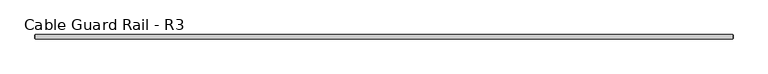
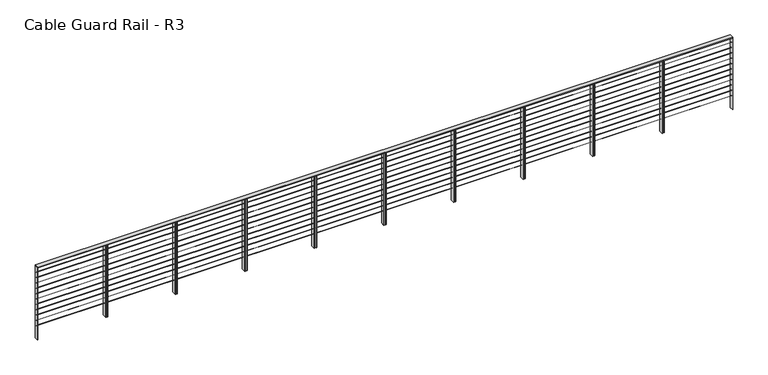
"""IFC4 building model written with IfcOpenShell, lengths in millimetres: railing geometry, Cable Guard Rail - R3."""

from ifc_helpers import new_model, si_unit, point, frame, frame_2d, origin, place, context, project, spatial, polyline, circle_curve, trimmed, segment, composite_curve, outline, extrude, source, transform, mapped, element, save


def cable_guard_rail_r3_83a43c1e(model_context):
    return source(origin(), model_context, "Body", "SweptSolid", [
        extrude(outline(polyline([(22546.3794304, 175195.7186306), (22546.3794304, 175271.9186306), (35016.7412551, 175271.9186306), (35016.7412551, 175195.7186306), (22546.3794304, 175195.7186306)])), frame((0.0, 0.0, 294887.65), z_axis=(0.0, 0.0, 1.0), x_axis=(1.0, 0.0, 0.0)), (0.0, 0.0, 1.0), 12.7),
        extrude(outline(composite_curve([segment(trimmed(circle_curve(frame_2d((175233.8186306, 294786.05)), 3.175), [point((175236.9936306, 294786.05))], [point((175230.6436306, 294786.05))], False, "CARTESIAN"), True, "CONTINUOUS"), segment(trimmed(circle_curve(frame_2d((175233.8186306, 294786.05)), 3.175), [point((175230.6436306, 294786.05))], [point((175236.9936306, 294786.05))], False, "CARTESIAN"), True, "CONTINUOUS")], self_intersect=False)), frame((22546.3794304, 0.0, 0.0), z_axis=(1.0, 0.0, 0.0), x_axis=(0.0, 1.0, 0.0)), (0.0, 0.0, 1.0), 12470.3618247),
        extrude(outline(composite_curve([segment(trimmed(circle_curve(frame_2d((175233.8186306, 294684.45)), 3.175), [point((175236.9936306, 294684.45))], [point((175230.6436306, 294684.45))], False, "CARTESIAN"), True, "CONTINUOUS"), segment(trimmed(circle_curve(frame_2d((175233.8186306, 294684.45)), 3.175), [point((175230.6436306, 294684.45))], [point((175236.9936306, 294684.45))], False, "CARTESIAN"), True, "CONTINUOUS")], self_intersect=False)), frame((22546.3794304, 0.0, 0.0), z_axis=(1.0, 0.0, 0.0), x_axis=(0.0, 1.0, 0.0)), (0.0, 0.0, 1.0), 12470.3618247),
        extrude(outline(composite_curve([segment(trimmed(circle_curve(frame_2d((175233.8186306, 294582.85)), 3.175), [point((175236.9936306, 294582.85))], [point((175230.6436306, 294582.85))], False, "CARTESIAN"), True, "CONTINUOUS"), segment(trimmed(circle_curve(frame_2d((175233.8186306, 294582.85)), 3.175), [point((175230.6436306, 294582.85))], [point((175236.9936306, 294582.85))], False, "CARTESIAN"), True, "CONTINUOUS")], self_intersect=False)), frame((22546.3794304, 0.0, 0.0), z_axis=(1.0, 0.0, 0.0), x_axis=(0.0, 1.0, 0.0)), (0.0, 0.0, 1.0), 12470.3618247),
        extrude(outline(composite_curve([segment(trimmed(circle_curve(frame_2d((175233.8186306, 294481.25)), 3.175), [point((175236.9936306, 294481.25))], [point((175230.6436306, 294481.25))], False, "CARTESIAN"), True, "CONTINUOUS"), segment(trimmed(circle_curve(frame_2d((175233.8186306, 294481.25)), 3.175), [point((175230.6436306, 294481.25))], [point((175236.9936306, 294481.25))], False, "CARTESIAN"), True, "CONTINUOUS")], self_intersect=False)), frame((22546.3794304, 0.0, 0.0), z_axis=(1.0, 0.0, 0.0), x_axis=(0.0, 1.0, 0.0)), (0.0, 0.0, 1.0), 12470.3618247),
        extrude(outline(composite_curve([segment(trimmed(circle_curve(frame_2d((175233.8186306, 294379.65)), 3.175), [point((175236.9936306, 294379.65))], [point((175230.6436306, 294379.65))], False, "CARTESIAN"), True, "CONTINUOUS"), segment(trimmed(circle_curve(frame_2d((175233.8186306, 294379.65)), 3.175), [point((175230.6436306, 294379.65))], [point((175236.9936306, 294379.65))], False, "CARTESIAN"), True, "CONTINUOUS")], self_intersect=False)), frame((22546.3794304, 0.0, 0.0), z_axis=(1.0, 0.0, 0.0), x_axis=(0.0, 1.0, 0.0)), (0.0, 0.0, 1.0), 12470.3618247),
        extrude(outline(composite_curve([segment(trimmed(circle_curve(frame_2d((175233.8186306, 294278.05)), 3.175), [point((175236.9936306, 294278.05))], [point((175230.6436306, 294278.05))], False, "CARTESIAN"), True, "CONTINUOUS"), segment(trimmed(circle_curve(frame_2d((175233.8186306, 294278.05)), 3.175), [point((175230.6436306, 294278.05))], [point((175236.9936306, 294278.05))], False, "CARTESIAN"), True, "CONTINUOUS")], self_intersect=False)), frame((22546.3794304, 0.0, 0.0), z_axis=(1.0, 0.0, 0.0), x_axis=(0.0, 1.0, 0.0)), (0.0, 0.0, 1.0), 12470.3618247),
        extrude(outline(composite_curve([segment(trimmed(circle_curve(frame_2d((175233.8186306, 294176.45)), 3.175), [point((175236.9936306, 294176.45))], [point((175230.6436306, 294176.45))], False, "CARTESIAN"), True, "CONTINUOUS"), segment(trimmed(circle_curve(frame_2d((175233.8186306, 294176.45)), 3.175), [point((175230.6436306, 294176.45))], [point((175236.9936306, 294176.45))], False, "CARTESIAN"), True, "CONTINUOUS")], self_intersect=False)), frame((22546.3794304, 0.0, 0.0), z_axis=(1.0, 0.0, 0.0), x_axis=(0.0, 1.0, 0.0)), (0.0, 0.0, 1.0), 12470.3618247),
        extrude(outline(composite_curve([segment(trimmed(circle_curve(frame_2d((175233.8186306, 294074.85)), 3.175), [point((175236.9936306, 294074.85))], [point((175230.6436306, 294074.85))], False, "CARTESIAN"), True, "CONTINUOUS"), segment(trimmed(circle_curve(frame_2d((175233.8186306, 294074.85)), 3.175), [point((175230.6436306, 294074.85))], [point((175236.9936306, 294074.85))], False, "CARTESIAN"), True, "CONTINUOUS")], self_intersect=False)), frame((22546.3794304, 0.0, 0.0), z_axis=(1.0, 0.0, 0.0), x_axis=(0.0, 1.0, 0.0)), (0.0, 0.0, 1.0), 12470.3618247),
        extrude(outline(composite_curve([segment(trimmed(circle_curve(frame_2d((175233.8186306, 293973.25)), 3.175), [point((175236.9936306, 293973.25))], [point((175230.6436306, 293973.25))], False, "CARTESIAN"), True, "CONTINUOUS"), segment(trimmed(circle_curve(frame_2d((175233.8186306, 293973.25)), 3.175), [point((175230.6436306, 293973.25))], [point((175236.9936306, 293973.25))], False, "CARTESIAN"), True, "CONTINUOUS")], self_intersect=False)), frame((22546.3794304, 0.0, 0.0), z_axis=(1.0, 0.0, 0.0), x_axis=(0.0, 1.0, 0.0)), (0.0, 0.0, 1.0), 12470.3618247),
        extrude(outline(composite_curve([segment(trimmed(circle_curve(frame_2d((175233.8186306, 293871.65)), 3.175), [point((175236.9936306, 293871.65))], [point((175230.6436306, 293871.65))], False, "CARTESIAN"), True, "CONTINUOUS"), segment(trimmed(circle_curve(frame_2d((175233.8186306, 293871.65)), 3.175), [point((175230.6436306, 293871.65))], [point((175236.9936306, 293871.65))], False, "CARTESIAN"), True, "CONTINUOUS")], self_intersect=False)), frame((22546.3794304, 0.0, 0.0), z_axis=(1.0, 0.0, 0.0), x_axis=(0.0, 1.0, 0.0)), (0.0, 0.0, 1.0), 12470.3618247),
        extrude(outline(composite_curve([segment(trimmed(circle_curve(frame_2d((175233.8186306, 293770.05)), 3.175), [point((175236.9936306, 293770.05))], [point((175230.6436306, 293770.05))], False, "CARTESIAN"), True, "CONTINUOUS"), segment(trimmed(circle_curve(frame_2d((175233.8186306, 293770.05)), 3.175), [point((175230.6436306, 293770.05))], [point((175236.9936306, 293770.05))], False, "CARTESIAN"), True, "CONTINUOUS")], self_intersect=False)), frame((22546.3794304, 0.0, 0.0), z_axis=(1.0, 0.0, 0.0), x_axis=(0.0, 1.0, 0.0)), (0.0, 0.0, 1.0), 12470.3618247),
        extrude(outline(polyline([(33747.4800727, 175271.9186306), (33757.0050727, 175271.9186306), (33757.0050727, 175195.7186306), (33747.4800727, 175195.7186306), (33747.4800727, 175271.9186306)])), frame((0.0, 0.0, 293522.4), z_axis=(0.0, 0.0, 1.0), x_axis=(1.0, 0.0, 0.0)), (0.0, 0.0, 1.0), 1365.25),
        extrude(outline(polyline([(33776.0550727, 175271.9186306), (33785.5318373, 175271.9186306), (33785.5318373, 175195.7186306), (33776.0550727, 175195.7186306), (33776.0550727, 175271.9186306)])), frame((0.0, 0.0, 293522.4), z_axis=(0.0, 0.0, 1.0), x_axis=(1.0, 0.0, 0.0)), (0.0, 0.0, 1.0), 1365.25),
        extrude(outline(polyline([(32500.4438902, 175271.9186306), (32509.9688902, 175271.9186306), (32509.9688902, 175195.7186306), (32500.4438902, 175195.7186306), (32500.4438902, 175271.9186306)])), frame((0.0, 0.0, 293522.4), z_axis=(0.0, 0.0, 1.0), x_axis=(1.0, 0.0, 0.0)), (0.0, 0.0, 1.0), 1365.25),
        extrude(outline(polyline([(32529.0188902, 175271.9186306), (32538.4956548, 175271.9186306), (32538.4956548, 175195.7186306), (32529.0188902, 175195.7186306), (32529.0188902, 175271.9186306)])), frame((0.0, 0.0, 293522.4), z_axis=(0.0, 0.0, 1.0), x_axis=(1.0, 0.0, 0.0)), (0.0, 0.0, 1.0), 1365.25),
        extrude(outline(polyline([(31253.4077077, 175271.9186306), (31262.9327077, 175271.9186306), (31262.9327077, 175195.7186306), (31253.4077077, 175195.7186306), (31253.4077077, 175271.9186306)])), frame((0.0, 0.0, 293522.4), z_axis=(0.0, 0.0, 1.0), x_axis=(1.0, 0.0, 0.0)), (0.0, 0.0, 1.0), 1365.25),
        extrude(outline(polyline([(31281.9827077, 175271.9186306), (31291.4594723, 175271.9186306), (31291.4594723, 175195.7186306), (31281.9827077, 175195.7186306), (31281.9827077, 175271.9186306)])), frame((0.0, 0.0, 293522.4), z_axis=(0.0, 0.0, 1.0), x_axis=(1.0, 0.0, 0.0)), (0.0, 0.0, 1.0), 1365.25),
        extrude(outline(polyline([(30006.3715252, 175271.9186306), (30015.8965252, 175271.9186306), (30015.8965252, 175195.7186306), (30006.3715252, 175195.7186306), (30006.3715252, 175271.9186306)])), frame((0.0, 0.0, 293522.4), z_axis=(0.0, 0.0, 1.0), x_axis=(1.0, 0.0, 0.0)), (0.0, 0.0, 1.0), 1365.25),
        extrude(outline(polyline([(30034.9465252, 175271.9186306), (30044.4232899, 175271.9186306), (30044.4232899, 175195.7186306), (30034.9465252, 175195.7186306), (30034.9465252, 175271.9186306)])), frame((0.0, 0.0, 293522.4), z_axis=(0.0, 0.0, 1.0), x_axis=(1.0, 0.0, 0.0)), (0.0, 0.0, 1.0), 1365.25),
        extrude(outline(polyline([(28759.3353428, 175271.9186306), (28768.8603428, 175271.9186306), (28768.8603428, 175195.7186306), (28759.3353428, 175195.7186306), (28759.3353428, 175271.9186306)])), frame((0.0, 0.0, 293522.4), z_axis=(0.0, 0.0, 1.0), x_axis=(1.0, 0.0, 0.0)), (0.0, 0.0, 1.0), 1365.25),
        extrude(outline(polyline([(28787.9103428, 175271.9186306), (28797.3871074, 175271.9186306), (28797.3871074, 175195.7186306), (28787.9103428, 175195.7186306), (28787.9103428, 175271.9186306)])), frame((0.0, 0.0, 293522.4), z_axis=(0.0, 0.0, 1.0), x_axis=(1.0, 0.0, 0.0)), (0.0, 0.0, 1.0), 1365.25),
        extrude(outline(polyline([(27512.2991603, 175271.9186306), (27521.8241603, 175271.9186306), (27521.8241603, 175195.7186306), (27512.2991603, 175195.7186306), (27512.2991603, 175271.9186306)])), frame((0.0, 0.0, 293522.4), z_axis=(0.0, 0.0, 1.0), x_axis=(1.0, 0.0, 0.0)), (0.0, 0.0, 1.0), 1365.25),
        extrude(outline(polyline([(27540.8741603, 175271.9186306), (27550.3509249, 175271.9186306), (27550.3509249, 175195.7186306), (27540.8741603, 175195.7186306), (27540.8741603, 175271.9186306)])), frame((0.0, 0.0, 293522.4), z_axis=(0.0, 0.0, 1.0), x_axis=(1.0, 0.0, 0.0)), (0.0, 0.0, 1.0), 1365.25),
        extrude(outline(polyline([(26265.2629778, 175271.9186306), (26274.7879778, 175271.9186306), (26274.7879778, 175195.7186306), (26265.2629778, 175195.7186306), (26265.2629778, 175271.9186306)])), frame((0.0, 0.0, 293522.4), z_axis=(0.0, 0.0, 1.0), x_axis=(1.0, 0.0, 0.0)), (0.0, 0.0, 1.0), 1365.25),
        extrude(outline(polyline([(26293.8379778, 175271.9186306), (26303.3147424, 175271.9186306), (26303.3147424, 175195.7186306), (26293.8379778, 175195.7186306), (26293.8379778, 175271.9186306)])), frame((0.0, 0.0, 293522.4), z_axis=(0.0, 0.0, 1.0), x_axis=(1.0, 0.0, 0.0)), (0.0, 0.0, 1.0), 1365.25),
        extrude(outline(polyline([(25018.2267953, 175271.9186306), (25027.7517953, 175271.9186306), (25027.7517953, 175195.7186306), (25018.2267953, 175195.7186306), (25018.2267953, 175271.9186306)])), frame((0.0, 0.0, 293522.4), z_axis=(0.0, 0.0, 1.0), x_axis=(1.0, 0.0, 0.0)), (0.0, 0.0, 1.0), 1365.25),
        extrude(outline(polyline([(25046.8017953, 175271.9186306), (25056.27856, 175271.9186306), (25056.27856, 175195.7186306), (25046.8017953, 175195.7186306), (25046.8017953, 175271.9186306)])), frame((0.0, 0.0, 293522.4), z_axis=(0.0, 0.0, 1.0), x_axis=(1.0, 0.0, 0.0)), (0.0, 0.0, 1.0), 1365.25),
        extrude(outline(polyline([(23771.1906129, 175271.9186306), (23780.7156129, 175271.9186306), (23780.7156129, 175195.7186306), (23771.1906129, 175195.7186306), (23771.1906129, 175271.9186306)])), frame((0.0, 0.0, 293522.4), z_axis=(0.0, 0.0, 1.0), x_axis=(1.0, 0.0, 0.0)), (0.0, 0.0, 1.0), 1365.25),
        extrude(outline(polyline([(23799.7656129, 175271.9186306), (23809.2423775, 175271.9186306), (23809.2423775, 175195.7186306), (23799.7656129, 175195.7186306), (23799.7656129, 175271.9186306)])), frame((0.0, 0.0, 293522.4), z_axis=(0.0, 0.0, 1.0), x_axis=(1.0, 0.0, 0.0)), (0.0, 0.0, 1.0), 1365.25),
        extrude(outline(polyline([(35013.5662551, 175265.5686306), (35019.9162551, 175265.5686306), (35019.9162551, 175202.0686306), (35013.5662551, 175202.0686306), (35013.5662551, 175265.5686306)])), frame((0.0, 0.0, 293522.4), z_axis=(0.0, 0.0, 1.0), x_axis=(1.0, 0.0, 0.0)), (0.0, 0.0, 1.0), 1365.25),
        extrude(outline(polyline([(22543.2044304, 175265.5686306), (22549.5544304, 175265.5686306), (22549.5544304, 175202.0686306), (22543.2044304, 175202.0686306), (22543.2044304, 175265.5686306)])), frame((0.0, 0.0, 293522.4), z_axis=(0.0, 0.0, 1.0), x_axis=(1.0, 0.0, 0.0)), (0.0, 0.0, 1.0), 1365.25),
    ])


if __name__ == "__main__":
    model = new_model("IFC4")
    model_context = context("Model", 3, world=origin())
    ifc_project = project(units=[si_unit("LENGTHUNIT", "METRE", prefix="MILLI")], contexts=[model_context])
    site = spatial("IfcSite", under=ifc_project)
    building = spatial("IfcBuilding", under=site)
    placement = place(None, origin())
    cable_guard_rail_r3_shape = cable_guard_rail_r3_83a43c1e(model_context)
    element("IfcRailing", 1, ObjectType="Cable Guard Rail - R3", at=placement, inside=building, context=model_context, shape_type="MappedRepresentation", body=[
        mapped(cable_guard_rail_r3_shape, transform((0.0, 0.0, 0.0), x_axis=(1.0, 0.0, 0.0), y_axis=(0.0, 1.0, 0.0), z_axis=(0.0, 0.0, 1.0))),
    ])
    save(model, "model.ifc")
